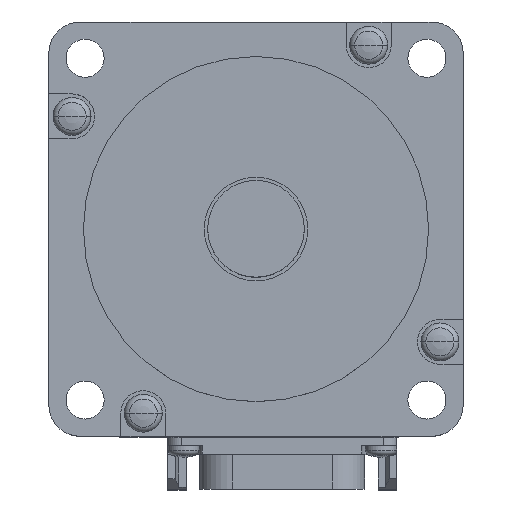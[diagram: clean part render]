
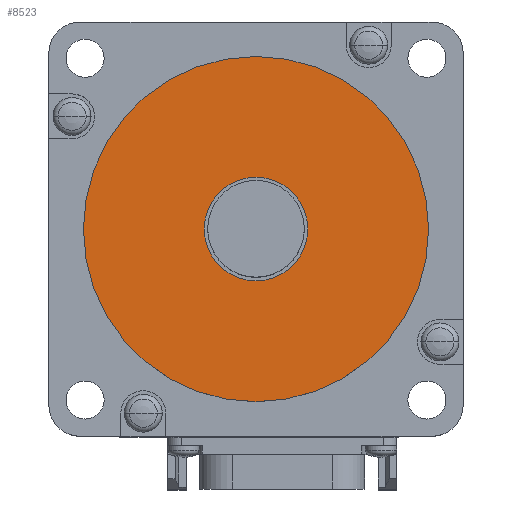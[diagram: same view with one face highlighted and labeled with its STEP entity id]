
A CAD part, top view. The second image highlights one B-rep face of the part: STEP entity #8523.
In plain terms, the highlighted planar face has unit normal (0, 0, 1).
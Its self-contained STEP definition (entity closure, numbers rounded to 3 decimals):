
#2082=CARTESIAN_POINT('',(0.,0.,3.));
#2083=DIRECTION('',(0.,0.,-1.));
#2084=DIRECTION('',(1.,0.,0.));
#2085=AXIS2_PLACEMENT_3D('',#2082,#2083,#2084);
#2087=CARTESIAN_POINT('',(0.,0.,3.));
#2088=DIRECTION('',(0.,0.,-1.));
#2089=DIRECTION('',(-1.,0.,0.));
#2090=AXIS2_PLACEMENT_3D('',#2087,#2088,#2089);
#2092=CARTESIAN_POINT('',(0.,0.,3.));
#2093=DIRECTION('',(0.,0.,1.));
#2094=DIRECTION('',(1.,0.,0.));
#2095=AXIS2_PLACEMENT_3D('',#2092,#2093,#2094);
#2097=CARTESIAN_POINT('',(0.,0.,3.));
#2098=DIRECTION('',(0.,0.,1.));
#2099=DIRECTION('',(-1.,0.,0.));
#2100=AXIS2_PLACEMENT_3D('',#2097,#2098,#2099);
#4649=CARTESIAN_POINT('',(25.,0.,3.));
#4650=VERTEX_POINT('',#4649);
#4651=CARTESIAN_POINT('',(-25.,0.,3.));
#4652=VERTEX_POINT('',#4651);
#5721=CARTESIAN_POINT('',(7.5,0.,3.));
#5722=CARTESIAN_POINT('',(-7.5,0.,3.));
#5723=VERTEX_POINT('',#5721);
#5724=VERTEX_POINT('',#5722);
#8507=CARTESIAN_POINT('',(0.,0.,3.));
#8508=DIRECTION('',(0.,0.,1.));
#8509=DIRECTION('',(1.,0.,0.));
#8510=AXIS2_PLACEMENT_3D('',#8507,#8508,#8509);
#8511=PLANE('',#8510);
#8512=ORIENTED_EDGE('',*,*,#8497,.T.);
#8514=ORIENTED_EDGE('',*,*,#8513,.T.);
#8515=EDGE_LOOP('',(#8512,#8514));
#8516=FACE_OUTER_BOUND('',#8515,.F.);
#8518=ORIENTED_EDGE('',*,*,#8517,.T.);
#8520=ORIENTED_EDGE('',*,*,#8519,.T.);
#8521=EDGE_LOOP('',(#8518,#8520));
#8522=FACE_BOUND('',#8521,.F.);
#8523=ADVANCED_FACE('',(#8516,#8522),#8511,.T.);
#2086=CIRCLE('',#2085,25.);
#2091=CIRCLE('',#2090,25.);
#2096=CIRCLE('',#2095,7.5);
#2101=CIRCLE('',#2100,7.5);
#8497=EDGE_CURVE('',#4650,#4652,#2086,.T.);
#8513=EDGE_CURVE('',#4652,#4650,#2091,.T.);
#8517=EDGE_CURVE('',#5723,#5724,#2096,.T.);
#8519=EDGE_CURVE('',#5724,#5723,#2101,.T.);
